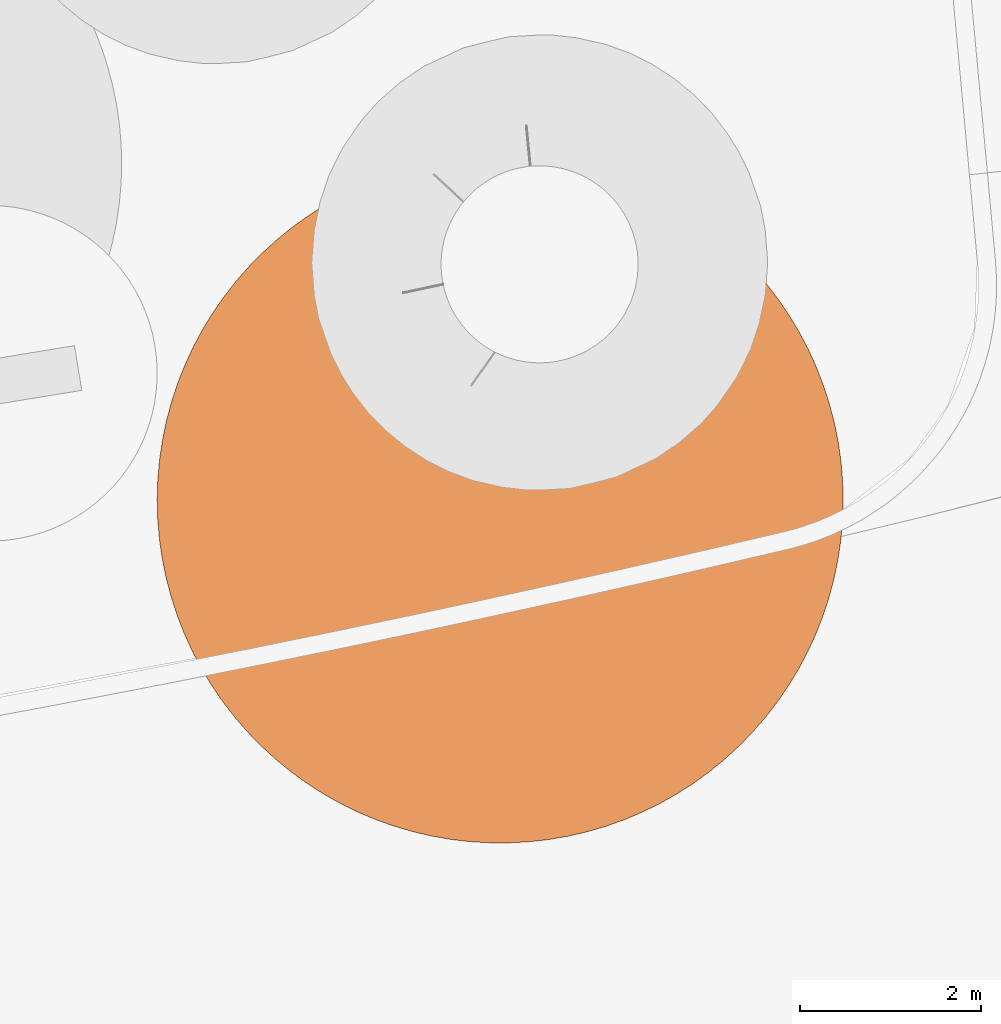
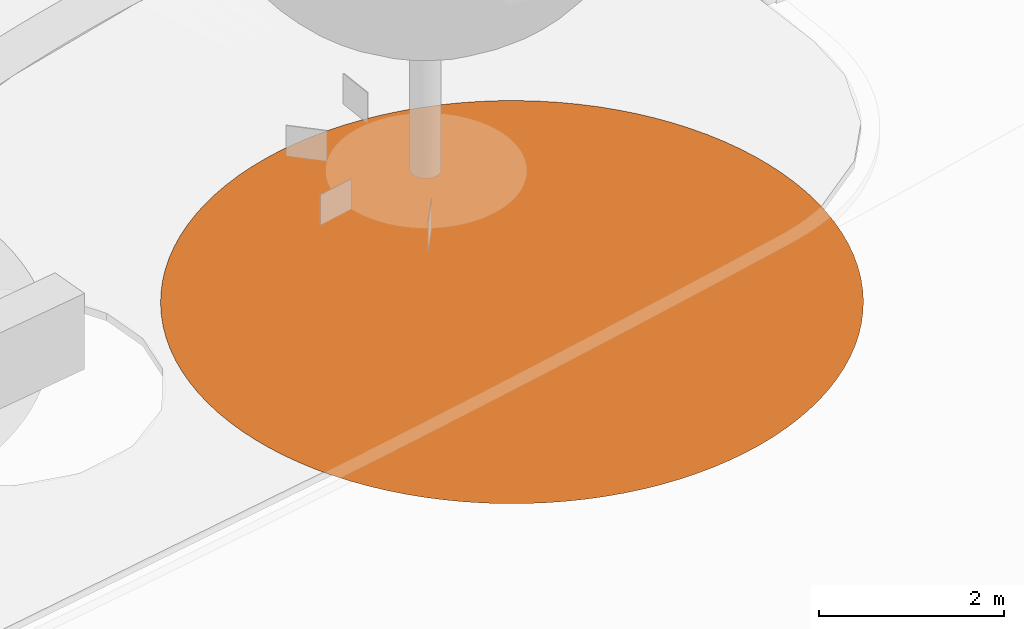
# One storey, part 66 of 75: 1 proxy.
"""IFC2X3 building model written with IfcOpenShell, lengths in metres."""

from ifc_helpers import new_model, entity, si_unit, converted_unit, derived_unit, direction, frame, origin, place, context, subcontext, project, spatial, face_set, surface_model, source, transform, mapped, material, type_object, type_shapes, element, save


model = new_model("IFC2X3")

# Units and contexts
model_context = context("Model", 3, precision=1e-05, world=origin(), true_north=direction((6.123031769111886e-17, 1.0)))
body_context = subcontext(model_context, "Body", "Model", "MODEL_VIEW")
ifc_project = project(units=[si_unit("LENGTHUNIT", "METRE"), si_unit("AREAUNIT", "SQUARE_METRE"), si_unit("VOLUMEUNIT", "CUBIC_METRE"), converted_unit("PLANEANGLEUNIT", "DEGREE", entity("IfcRatioMeasure", 0.017453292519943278), si_unit("PLANEANGLEUNIT", "RADIAN"), dimensions=[0, 0, 0, 0, 0, 0, 0]), si_unit("MASSUNIT", "GRAM", prefix="KILO"), derived_unit("MASSDENSITYUNIT", [(si_unit("MASSUNIT", "GRAM", prefix="KILO"), 1), (si_unit("LENGTHUNIT", "METRE"), -3)]), derived_unit("IONCONCENTRATIONUNIT", [(si_unit("MASSUNIT", "GRAM", prefix="KILO"), 1), (si_unit("LENGTHUNIT", "METRE"), -3)]), derived_unit("MOMENTOFINERTIAUNIT", [(si_unit("LENGTHUNIT", "METRE"), 4)]), si_unit("TIMEUNIT", "SECOND"), si_unit("FREQUENCYUNIT", "HERTZ"), si_unit("THERMODYNAMICTEMPERATUREUNIT", "DEGREE_CELSIUS"), derived_unit("THERMALTRANSMITTANCEUNIT", [(si_unit("MASSUNIT", "GRAM", prefix="KILO"), 1), (si_unit("THERMODYNAMICTEMPERATUREUNIT", "KELVIN"), -1), (si_unit("TIMEUNIT", "SECOND"), -3)]), derived_unit("THERMALCONDUCTANCEUNIT", [(si_unit("MASSUNIT", "GRAM", prefix="KILO"), 1), (si_unit("THERMODYNAMICTEMPERATUREUNIT", "KELVIN"), -1), (si_unit("TIMEUNIT", "SECOND"), -3), (si_unit("LENGTHUNIT", "METRE"), 1)]), derived_unit("VOLUMETRICFLOWRATEUNIT", [(si_unit("LENGTHUNIT", "METRE"), 3), (si_unit("TIMEUNIT", "SECOND"), -1)]), derived_unit("MASSFLOWRATEUNIT", [(si_unit("MASSUNIT", "GRAM", prefix="KILO"), 1), (si_unit("TIMEUNIT", "SECOND"), -1)]), derived_unit("ROTATIONALFREQUENCYUNIT", [(si_unit("TIMEUNIT", "SECOND"), -1)]), si_unit("ELECTRICCURRENTUNIT", "AMPERE"), si_unit("ELECTRICVOLTAGEUNIT", "VOLT"), si_unit("POWERUNIT", "WATT"), si_unit("FORCEUNIT", "NEWTON", prefix="KILO"), si_unit("ILLUMINANCEUNIT", "LUX"), si_unit("LUMINOUSFLUXUNIT", "LUMEN"), si_unit("LUMINOUSINTENSITYUNIT", "CANDELA"), derived_unit("USERDEFINED", [(si_unit("MASSUNIT", "GRAM", prefix="KILO"), -1), (si_unit("LENGTHUNIT", "METRE"), -2), (si_unit("TIMEUNIT", "SECOND"), 3), (si_unit("LUMINOUSFLUXUNIT", "LUMEN"), 1)]), derived_unit("USERDEFINED", [(si_unit("MASSUNIT", "GRAM", prefix="KILO"), 1), (si_unit("TIMEUNIT", "SECOND"), -3), (si_unit("LENGTHUNIT", "METRE"), 3), (si_unit("ELECTRICCURRENTUNIT", "AMPERE"), -2)]), derived_unit("SOUNDPOWERUNIT", [(si_unit("MASSUNIT", "GRAM", prefix="KILO"), 1), (si_unit("TIMEUNIT", "SECOND"), -3), (si_unit("LENGTHUNIT", "METRE"), 2)]), derived_unit("SOUNDPRESSUREUNIT", [(si_unit("MASSUNIT", "GRAM", prefix="KILO"), 1), (si_unit("LENGTHUNIT", "METRE"), -1), (si_unit("TIMEUNIT", "SECOND"), -2)]), derived_unit("LINEARVELOCITYUNIT", [(si_unit("LENGTHUNIT", "METRE"), 1), (si_unit("TIMEUNIT", "SECOND"), -1)]), si_unit("PRESSUREUNIT", "PASCAL"), derived_unit("USERDEFINED", [(si_unit("MASSUNIT", "GRAM", prefix="KILO"), 1), (si_unit("LENGTHUNIT", "METRE"), -2), (si_unit("TIMEUNIT", "SECOND"), -2)]), derived_unit("LINEARFORCEUNIT", [(si_unit("MASSUNIT", "GRAM", prefix="KILO"), 1), (si_unit("TIMEUNIT", "SECOND"), -2)]), derived_unit("PLANARFORCEUNIT", [(si_unit("MASSUNIT", "GRAM", prefix="KILO"), 1), (si_unit("LENGTHUNIT", "METRE"), -1), (si_unit("TIMEUNIT", "SECOND"), -2)]), derived_unit("SPECIFICHEATCAPACITYUNIT", [(si_unit("THERMODYNAMICTEMPERATUREUNIT", "KELVIN"), -1), (si_unit("LENGTHUNIT", "METRE"), 2), (si_unit("TIMEUNIT", "SECOND"), -2)]), derived_unit("HEATINGVALUEUNIT", [(si_unit("LENGTHUNIT", "METRE"), 2), (si_unit("TIMEUNIT", "SECOND"), -2)]), derived_unit("VAPORPERMEABILITYUNIT", [(si_unit("LENGTHUNIT", "METRE"), -1), (si_unit("TIMEUNIT", "SECOND"), 1)]), derived_unit("DYNAMICVISCOSITYUNIT", [(si_unit("MASSUNIT", "GRAM", prefix="KILO"), 1), (si_unit("TIMEUNIT", "SECOND"), -1), (si_unit("LENGTHUNIT", "METRE"), -1)]), derived_unit("THERMALEXPANSIONCOEFFICIENTUNIT", [(si_unit("THERMODYNAMICTEMPERATUREUNIT", "KELVIN"), -1)]), derived_unit("MODULUSOFELASTICITYUNIT", [(si_unit("MASSUNIT", "GRAM", prefix="KILO"), 1), (si_unit("LENGTHUNIT", "METRE"), -1), (si_unit("TIMEUNIT", "SECOND"), -2)]), derived_unit("ISOTHERMALMOISTURECAPACITYUNIT", [(si_unit("LENGTHUNIT", "METRE"), 3), (si_unit("MASSUNIT", "GRAM", prefix="KILO"), -1)]), derived_unit("MOISTUREDIFFUSIVITYUNIT", [(si_unit("TIMEUNIT", "SECOND"), -1), (si_unit("LENGTHUNIT", "METRE"), 2)])], contexts=[model_context])

# Site, building, storey
site_placement = place(None, origin())
site = spatial("IfcSite", under=ifc_project, at=site_placement, Name="Default", CompositionType="ELEMENT")
building_placement = place(site_placement, origin())
building = spatial("IfcBuilding", under=site, at=building_placement, Name="Projeto", CompositionType="ELEMENT")
storey_placement = place(building_placement, origin())
storey = spatial("IfcBuildingStorey", under=building, at=storey_placement, Name="Nível 1", CompositionType="ELEMENT", Elevation=0.0)

# Proxy
ifc_material = material(Name="<Unnamed>")
building_element_proxy_type = type_object("IfcBuildingElementProxyType", Name="Arvore simplificada:Arvore simplificada", PredefinedType="NOTDEFINED", material=ifc_material)
shared_shape = source(origin(), body_context, "Body", "SurfaceModel", [
    surface_model("IfcFaceBasedSurfaceModel", [(-3.9544974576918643, -0.18317979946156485, 0.0), (-3.9483138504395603, -0.3996342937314, 0.0), (-3.929783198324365, -0.6153827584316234, 0.0), (-3.8989659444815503, -0.8297214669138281, 0.0), (-3.855962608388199, -1.0419512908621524, 0.0), (-3.8009134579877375, -1.2513799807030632, 0.0), (-3.733998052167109, -1.4573244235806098, 0.0), (-3.655434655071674, -1.6591128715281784, 0.0), (-3.5654795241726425, -1.8560871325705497, 0.0), (-3.4644260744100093, -2.0476047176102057, 0.0), (-3.3526039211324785, -2.2330409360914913, 0.0), (-3.2303778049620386, -2.411790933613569, 0.0), (-3.098146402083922, -2.583271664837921, 0.0), (-2.9563410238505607, -2.7469237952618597, 0.0), (-2.8054242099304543, -2.9022135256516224, 0.0), (-2.6458882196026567, -3.048634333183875, 0.0), (-2.4782534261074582, -3.1857086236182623, 0.0), (-2.3030666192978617, -3.3129892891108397, 0.0), (-2.12089922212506, -3.430061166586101, 0.0), (-1.93234542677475, -3.5365423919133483, 0.0), (-1.7380202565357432, -3.632085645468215, 0.0), (-1.5385575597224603, -3.7163792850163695, 0.0), (-1.3346079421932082, -3.789148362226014, 0.0), (-1.1268366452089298, -3.8501555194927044, 0.0), (-0.9159213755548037, -3.8992017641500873, 0.0), (-0.7025500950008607, -3.9361271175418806, 0.0), (-0.48741877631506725, -3.9608111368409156, 0.0), (-0.2712291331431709, -3.9731733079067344, 0.0), (-0.054686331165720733, -3.9731733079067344, 0.0), (0.16150331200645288, -3.9608111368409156, 0.0), (0.3766346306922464, -3.9361271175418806, 0.0), (0.5900059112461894, -3.8992017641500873, 0.0), (0.8009211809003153, -3.8501555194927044, 0.0), (1.0086924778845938, -3.789148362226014, 0.0), (1.212642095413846, -3.7163792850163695, 0.0), (1.4121047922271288, -3.632085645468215, 0.0), (1.6064299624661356, -3.5365423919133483, 0.0), (1.7949837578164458, -3.430061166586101, 0.0), (1.9771511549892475, -3.3129892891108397, 0.0), (2.152337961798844, -3.1857086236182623, 0.0), (2.3199727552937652, -3.048634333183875, 0.0), (2.479508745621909, -2.9022135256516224, 0.0), (2.6304255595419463, -2.7469237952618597, 0.0), (2.7722309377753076, -2.583271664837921, 0.0), (2.9044623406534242, -2.411790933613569, 0.0), (3.026688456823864, -2.2330409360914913, 0.0), (3.138510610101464, -2.0476047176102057, 0.0), (3.239564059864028, -1.8560871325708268, 0.0), (3.3295191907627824, -1.6591128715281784, 0.0), (3.4080825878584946, -1.4573244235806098, 0.0), (3.474997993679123, -1.2513799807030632, 0.0), (3.5300471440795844, -1.0419512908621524, 0.0), (3.573050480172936, -0.8297214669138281, 0.0), (3.6038677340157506, -0.6153827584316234, 0.0), (3.622398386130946, -0.3996342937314, 0.0), (3.62858199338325, -0.18317979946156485, 0.0), (3.622398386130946, 0.03327469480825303, 0.0), (3.6038677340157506, 0.24902315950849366, 0.0), (3.573050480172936, 0.4633618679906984, 0.0), (3.5300471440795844, 0.6755916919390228, 0.0), (3.474997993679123, 0.8850203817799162, 0.0), (3.4080825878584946, 1.0909648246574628, 0.0), (3.3295191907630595, 1.2927532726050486, 0.0), (3.239564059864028, 1.4897275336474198, 0.0), (3.138510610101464, 1.6812451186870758, 0.0), (3.026688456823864, 1.8666813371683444, 0.0), (2.9044623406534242, 2.0454313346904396, 0.0), (2.7722309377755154, 2.2169120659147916, 0.0), (2.6304255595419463, 2.38056419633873, 0.0), (2.479508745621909, 2.535853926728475, 0.0), (2.3199727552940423, 2.682274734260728, 0.0), (2.152337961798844, 2.819349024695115, 0.0), (1.9771511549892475, 2.946629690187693, 0.0), (1.7949837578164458, 3.063701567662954, 0.0), (1.6064299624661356, 3.1701827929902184, 0.0), (1.4121047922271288, 3.265726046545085, 0.0), (1.212642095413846, 3.3500196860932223, 0.0), (1.0086924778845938, 3.422788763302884, 0.0), (0.8009211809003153, 3.4837959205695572, 0.0), (0.5900059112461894, 3.5328421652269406, 0.0), (0.3766346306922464, 3.5697675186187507, 0.0), (0.16150331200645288, 3.5944515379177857, 0.0), (-0.05468633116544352, 3.606813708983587, 0.0), (-0.27122913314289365, 3.606813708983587, 0.0), (-0.48741877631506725, 3.5944515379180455, 0.0), (-0.7025500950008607, 3.5697675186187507, 0.0), (-0.9159213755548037, 3.5328421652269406, 0.0), (-1.1268366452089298, 3.4837959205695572, 0.0), (-1.3346079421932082, 3.422788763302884, 0.0), (-1.5385575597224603, 3.3500196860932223, 0.0), (-1.7380202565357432, 3.265726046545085, 0.0), (-1.93234542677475, 3.1701827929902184, 0.0), (-2.12089922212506, 3.063701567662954, 0.0), (-2.3030666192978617, 2.946629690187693, 0.0), (-2.4782534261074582, 2.819349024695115, 0.0), (-2.6458882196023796, 2.682274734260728, 0.0), (-2.8054242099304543, 2.535853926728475, 0.0), (-2.9563410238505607, 2.38056419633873, 0.0), (-3.098146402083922, 2.2169120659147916, 0.0), (-3.2303778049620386, 2.0454313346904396, 0.0), (-3.3526039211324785, 1.8666813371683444, 0.0), (-3.4644260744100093, 1.6812451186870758, 0.0), (-3.5654795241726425, 1.4897275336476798, 0.0), (-3.6554346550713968, 1.2927532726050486, 0.0), (-3.733998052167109, 1.0909648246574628, 0.0), (-3.8009134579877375, 0.8850203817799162, 0.0), (-3.855962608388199, 0.6755916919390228, 0.0), (-3.8989659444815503, 0.4633618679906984, 0.0), (-3.929783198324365, 0.24902315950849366, 0.0), (-3.9483138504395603, 0.03327469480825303, 0.0)], [face_set([[[0, 1, 2, 3, 4, 5, 6, 7, 8, 9, 10, 11, 12, 13, 14, 15, 16, 17, 18, 19, 20, 21, 22, 23, 24, 25, 26, 27, 28, 29, 30, 31, 32, 33, 34, 35, 36, 37, 38, 39, 40, 41, 42, 43, 44, 45, 46, 47, 48, 49, 50, 51, 52, 53, 54, 55, 56, 57, 58, 59, 60, 61, 62, 63, 64, 65, 66, 67, 68, 69, 70, 71, 72, 73, 74, 75, 76, 77, 78, 79, 80, 81, 82, 83, 84, 85, 86, 87, 88, 89, 90, 91, 92, 93, 94, 95, 96, 97, 98, 99, 100, 101, 102, 103, 104, 105, 106, 107, 108, 109]]])]),
])
type_shapes(building_element_proxy_type, [shared_shape])
proxy_placement = place(storey_placement, frame((26.70493357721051, -14.12662659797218, 0.0), z_axis=(0.0, 0.0, 1.0), x_axis=(0.9422539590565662, 0.3348992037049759, 0.0)))
element("IfcBuildingElementProxy", 1, at=proxy_placement, inside=storey, type_object=building_element_proxy_type, material=ifc_material, Name="Arvore simplificada:Arvore simplificada", ObjectType="Arvore simplificada:Arvore simplificada", context=body_context, shape_type="MappedRepresentation", body=[
    mapped(shared_shape, transform((0.0, 0.0, 0.0), scale=1.0)),
])

save(model, "model.ifc")
